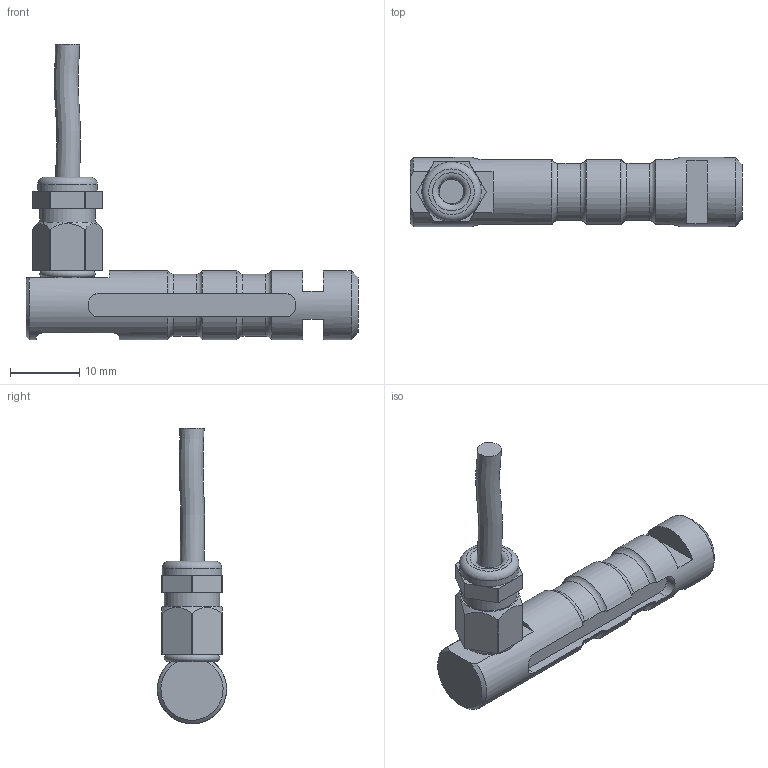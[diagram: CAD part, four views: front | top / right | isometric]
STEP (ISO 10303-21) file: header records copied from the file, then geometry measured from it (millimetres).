
FILE_DESCRIPTION(/* description */ ('Alibre Inc.'),/* implementation_level */ '2;1');
FILE_NAME(/* name */ 'export0',/* time_stamp */ '2014-06-24T16:44:34+02:00',/* author */ (''),/* organization */ (''),/* preprocessor_version */ 'ST-DEVELOPER v14',/* originating_system */ 'Alibre',/* authorisation */ '');
FILE_SCHEMA (('CONFIG_CONTROL_DESIGN'));
Length unit declared in the file: centimetre
Products named in the file (6): ID_1; ID_2; ID_3
Bounding box: 48 x 10 x 42.73 mm (x, y, z)
Volume: 3934.3 mm3; surface area: 3082.5 mm2
Topology: 4 solids, 4 shells, 100 faces, 255 edges, 168 vertices
Faces by surface type: plane 46, cylinder 37, torus 11, cone 5, bspline 1
Full cylindrical faces by diameter (mm): 3.5 x1, 4.917 x1, 6 x1, 8 x1, 8.6 x1, 10 x2
Entity records: 3906 total; most frequent: CARTESIAN_POINT 1205, ORIENTED_EDGE 466, DIRECTION 359, EDGE_CURVE 233, VERTEX_POINT 162, AXIS2_PLACEMENT_3D 147, FACE_BOUND 123, EDGE_LOOP 122
